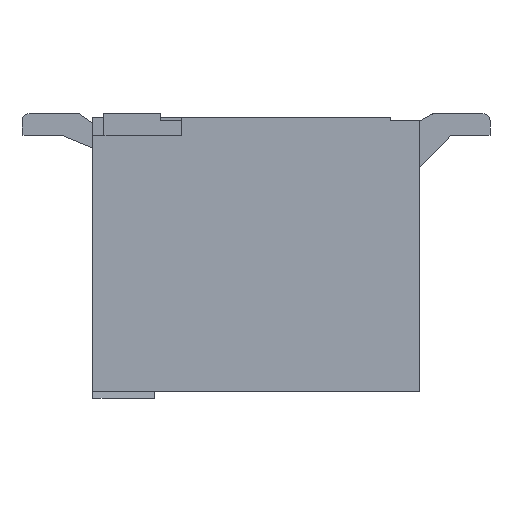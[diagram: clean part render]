
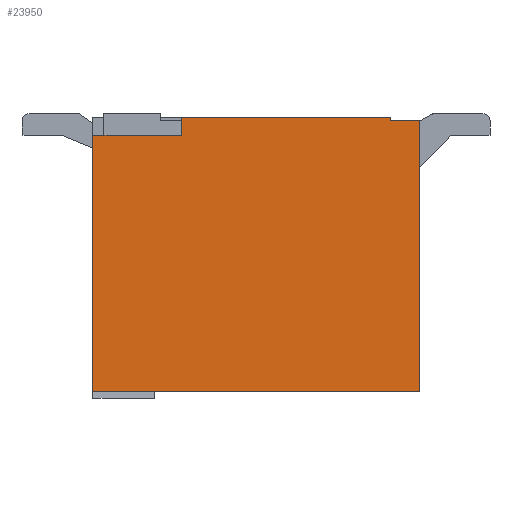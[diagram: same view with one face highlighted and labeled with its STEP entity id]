
A CAD part, left-side view. The second image highlights one B-rep face of the part: STEP entity #23950.
In plain terms, the highlighted planar face has unit normal (-1, 0, 0).
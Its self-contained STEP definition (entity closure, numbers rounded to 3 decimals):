
#1=DIRECTION('',(0.,1.,0.));
#2=VECTOR('',#1,0.4);
#3=CARTESIAN_POINT('',(0.,-4.6,3.81));
#4=LINE('',#3,#2);
#5=DIRECTION('',(0.,0.,-1.));
#6=VECTOR('',#5,3.81);
#7=CARTESIAN_POINT('',(0.,-4.6,3.81));
#8=LINE('',#7,#6);
#9=DIRECTION('',(0.,1.,0.));
#10=VECTOR('',#9,4.6);
#11=CARTESIAN_POINT('',(0.,-4.6,0.));
#12=LINE('',#11,#10);
#13=DIRECTION('',(0.,0.,1.));
#14=VECTOR('',#13,3.61);
#15=CARTESIAN_POINT('',(0.,0.,0.));
#16=LINE('',#15,#14);
#17=DIRECTION('',(0.,-1.,0.));
#18=VECTOR('',#17,1.25);
#19=CARTESIAN_POINT('',(0.,0.,3.61));
#20=LINE('',#19,#18);
#21=DIRECTION('',(0.,0.,-1.));
#22=VECTOR('',#21,0.25);
#23=CARTESIAN_POINT('',(0.,-1.25,3.86));
#24=LINE('',#23,#22);
#25=DIRECTION('',(0.,-1.,0.));
#26=VECTOR('',#25,2.95);
#27=CARTESIAN_POINT('',(0.,-1.25,3.86));
#28=LINE('',#27,#26);
#29=DIRECTION('',(0.,0.,-1.));
#30=VECTOR('',#29,0.05);
#31=CARTESIAN_POINT('',(0.,-4.2,3.86));
#32=LINE('',#31,#30);
#18211=CARTESIAN_POINT('',(0.,-4.6,0.));
#18212=CARTESIAN_POINT('',(0.,0.,0.));
#18213=VERTEX_POINT('',#18211);
#18214=VERTEX_POINT('',#18212);
#18247=CARTESIAN_POINT('',(0.,-1.25,3.86));
#18248=CARTESIAN_POINT('',(0.,-1.25,3.61));
#18249=VERTEX_POINT('',#18247);
#18250=VERTEX_POINT('',#18248);
#18251=CARTESIAN_POINT('',(0.,0.,3.61));
#18252=VERTEX_POINT('',#18251);
#18305=CARTESIAN_POINT('',(0.,-4.6,3.81));
#18306=CARTESIAN_POINT('',(0.,-4.2,3.81));
#18307=VERTEX_POINT('',#18305);
#18308=VERTEX_POINT('',#18306);
#18309=CARTESIAN_POINT('',(0.,-4.2,3.86));
#18310=VERTEX_POINT('',#18309);
#23927=CARTESIAN_POINT('',(0.,0.,0.));
#23928=DIRECTION('',(1.,0.,0.));
#23929=DIRECTION('',(0.,-1.,0.));
#23930=AXIS2_PLACEMENT_3D('',#23927,#23928,#23929);
#23931=PLANE('',#23930);
#23933=ORIENTED_EDGE('',*,*,#23932,.F.);
#23935=ORIENTED_EDGE('',*,*,#23934,.T.);
#23937=ORIENTED_EDGE('',*,*,#23936,.T.);
#23939=ORIENTED_EDGE('',*,*,#23938,.T.);
#23941=ORIENTED_EDGE('',*,*,#23940,.T.);
#23943=ORIENTED_EDGE('',*,*,#23942,.F.);
#23945=ORIENTED_EDGE('',*,*,#23944,.T.);
#23947=ORIENTED_EDGE('',*,*,#23946,.T.);
#23948=EDGE_LOOP('',(#23933,#23935,#23937,#23939,#23941,#23943,#23945,#23947));
#23949=FACE_OUTER_BOUND('',#23948,.F.);
#23950=ADVANCED_FACE('',(#23949),#23931,.F.);
#23932=EDGE_CURVE('',#18307,#18308,#4,.T.);
#23934=EDGE_CURVE('',#18307,#18213,#8,.T.);
#23936=EDGE_CURVE('',#18213,#18214,#12,.T.);
#23938=EDGE_CURVE('',#18214,#18252,#16,.T.);
#23940=EDGE_CURVE('',#18252,#18250,#20,.T.);
#23942=EDGE_CURVE('',#18249,#18250,#24,.T.);
#23944=EDGE_CURVE('',#18249,#18310,#28,.T.);
#23946=EDGE_CURVE('',#18310,#18308,#32,.T.);
